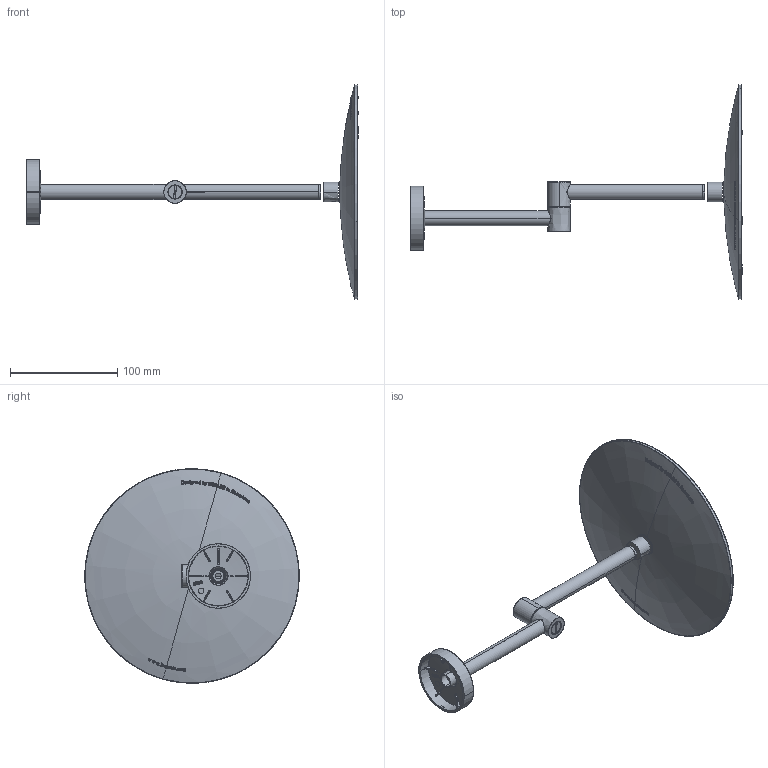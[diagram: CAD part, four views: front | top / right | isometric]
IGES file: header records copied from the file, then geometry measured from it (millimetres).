
Start section: SolidWorks IGES file using analytic representation for surfaces
Global section: file name: G:\Projects\New project\For Marketing\IGS\IGS\2015-10-29\2510585VW.IGS; native system: SolidWorks 2010; preprocessor: SolidWorks 2010; author: linda; date: 151014.103538; units: millimetre
Bounding box: 309.63 x 199.94 x 200 mm (x, y, z)
Surface area: 125578.3 mm2 (no closed solid volume)
Topology: 0 solids, 0 shells, 377 faces, 11120 edges, 11114 vertices
Faces by surface type: bspline 226, revolution 151
